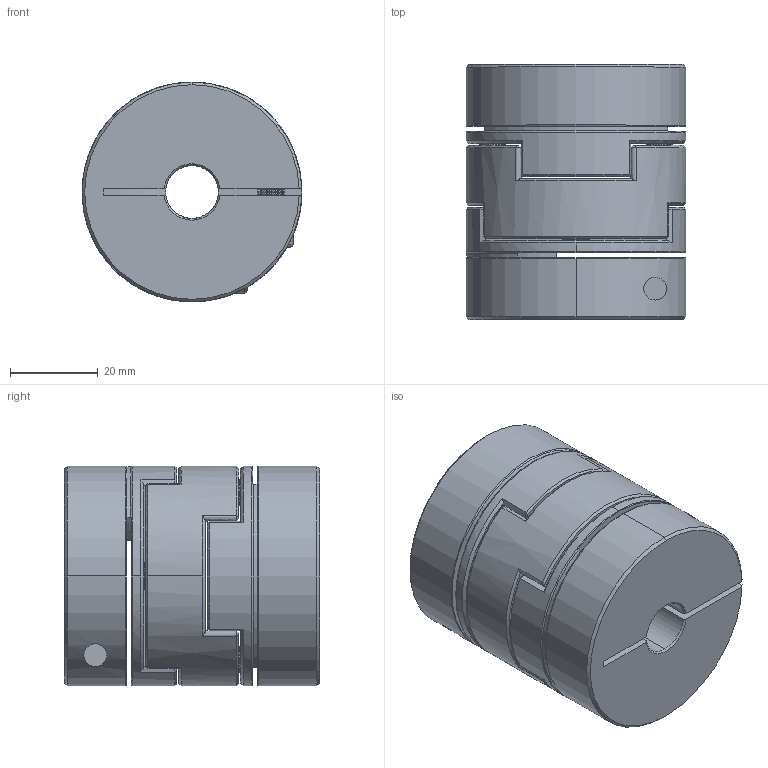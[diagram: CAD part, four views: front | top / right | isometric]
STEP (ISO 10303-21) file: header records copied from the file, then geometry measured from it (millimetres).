
FILE_DESCRIPTION (( 'STEP AP203' ), '1' );
FILE_NAME ('LZ-B-D50L58-12-24.STEP', '2021-10-29T07:29:34', ( '' ), ( '' ), 'SwSTEP 2.0', 'SolidWorks 2018', '' );
FILE_SCHEMA (( 'CONFIG_CONTROL_DESIGN' ));
Length unit declared in the file: millimetre
Products named in the file (1): LZ-B-D50L58-12-24
Bounding box: 50 x 58 x 50 mm (x, y, z)
Volume: 89218.4 mm3; surface area: 29752.5 mm2
Topology: 1 solids, 27 shells, 561 faces, 1370 edges, 814 vertices
Faces by surface type: cone 252, cylinder 160, plane 91, bspline 54, torus 4
Entity records: 17482 total; most frequent: CARTESIAN_POINT 4365, DIRECTION 2786, ORIENTED_EDGE 2732, EDGE_CURVE 1366, AXIS2_PLACEMENT_3D 1124, VERTEX_POINT 814, CIRCLE 616, EDGE_LOOP 594
